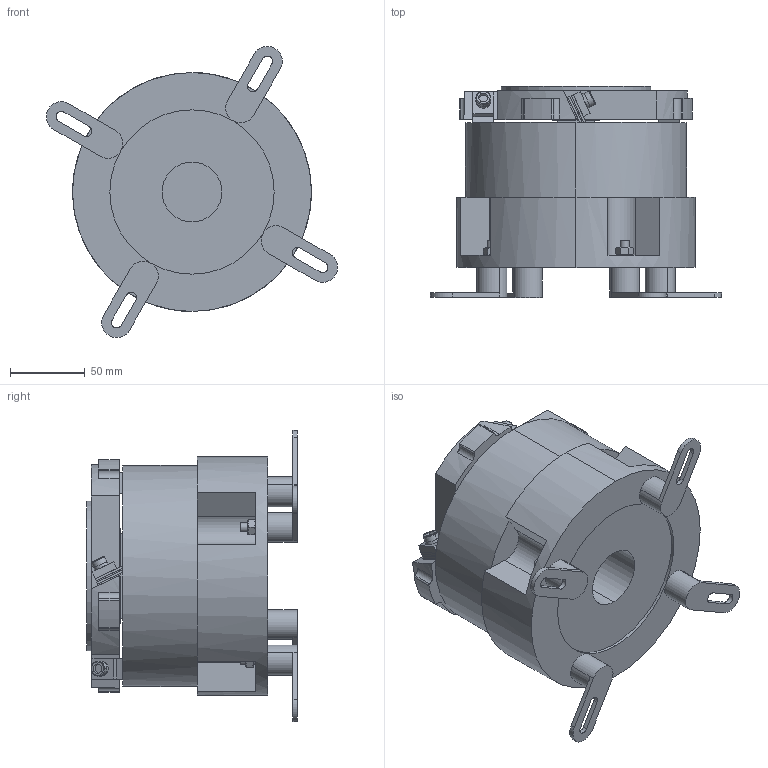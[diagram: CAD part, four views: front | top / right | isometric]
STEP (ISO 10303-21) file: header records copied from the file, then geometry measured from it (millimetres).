
FILE_DESCRIPTION(/* description */ (''),/* implementation_level */ '2;1');
FILE_NAME(/* name */ 'DF150.stp',/* time_stamp */ '2022-04-15T10:09:45+08:00',/* author */ (''),/* organization */ (''),/* preprocessor_version */ 'ST-DEVELOPER v18.102',/* originating_system */ 'SIEMENS PLM Software NX 2019',/* authorisation */ '');
FILE_SCHEMA (('AUTOMOTIVE_DESIGN { 1 0 10303 214 3 1 1 1 }'));
Length unit declared in the file: millimetre
Products named in the file (1): DF150_stp_objects
Bounding box: 194.94 x 141.15 x 194.94 mm (x, y, z)
Volume: 1939436 mm3; surface area: 190763.2 mm2
Topology: 41 solids, 41 shells, 521 faces, 1186 edges, 770 vertices
Faces by surface type: plane 294, cylinder 181, cone 38, torus 8
Full cylindrical faces by diameter (mm): 5.2 x3, 100 x1
Entity records: 15072 total; most frequent: CARTESIAN_POINT 2636, DIRECTION 2600, ORIENTED_EDGE 2354, EDGE_CURVE 1177, AXIS2_PLACEMENT_3D 956, VERTEX_POINT 768, LINE 688, VECTOR 688
